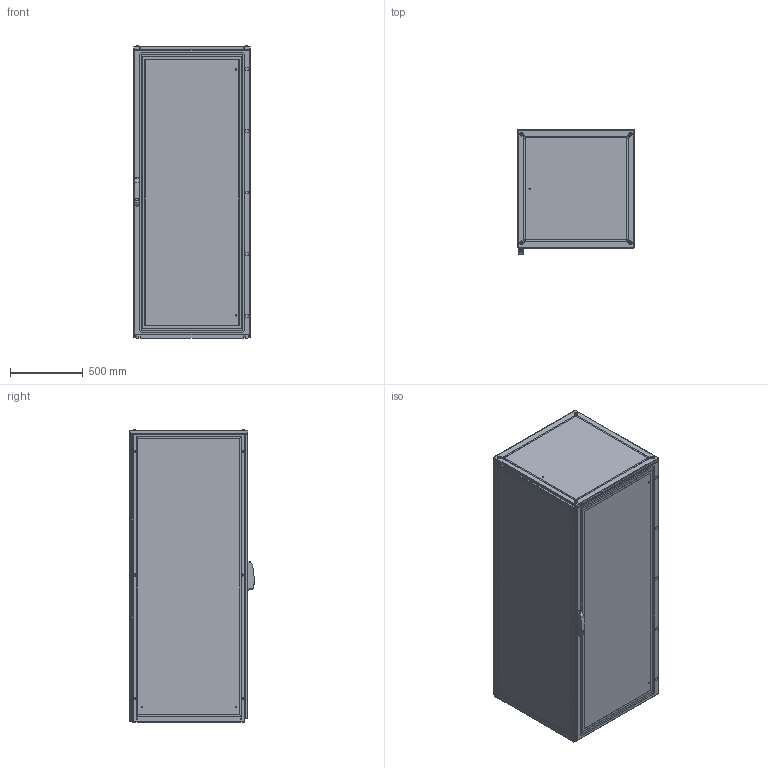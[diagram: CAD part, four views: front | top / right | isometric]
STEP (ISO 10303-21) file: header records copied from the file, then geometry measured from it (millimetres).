
FILE_DESCRIPTION(/* description */ ('STEP AP214'),/* implementation_level */ '2;1');
FILE_NAME(/* name */ 'ENUX082008PR-LOD350',/* time_stamp */ '2025-10-03T09:53:20+02:00',/* author */ ('License CC BY-ND 4.0'),/* organization */ ('CADENAS'),/* preprocessor_version */ 'ST-DEVELOPER v19.3',/* originating_system */ 'PARTsolutions',/* authorisation */ ' ');
FILE_SCHEMA (('AUTOMOTIVE_DESIGN {1 0 10303 214 3 1 1}'));
Length unit declared in the file: millimetre
Products named in the file (10): ENUX082008PR-LOD350; ENUX082008PR-LOD350_CON; ENUX082008PR-LOD350_floor1; ENUX082008PR-LOD350_floor2; Screw M12x30 architecture 350; ENUX082008PR-LOD350_side; ENUX082008PR-LOD350_top; ENUX082008PR-LOD350_back_door; ENUX082008PR-LOD350_door; ENUX082008PR-LOD350_handle
Assembly tree (18 placements, depth 2):
  ENUX082008PR-LOD350
    ENUX082008PR-LOD350_CON
    ENUX082008PR-LOD350_floor1  x2
    ENUX082008PR-LOD350_floor2  x5
    Screw M12x30 architecture 350  x4
    ENUX082008PR-LOD350_side  x2
    ENUX082008PR-LOD350_top
    ENUX082008PR-LOD350_back_door
    ENUX082008PR-LOD350_door
    ENUX082008PR-LOD350_handle
Bounding box: 812 x 857 x 2014.1 mm (x, y, z)
Volume: 25828013.8 mm3; surface area: 21793660.8 mm2
Topology: 18 solids, 18 shells, 1932 faces, 5427 edges, 3540 vertices
Faces by surface type: plane 976, cylinder 791, cone 77, torus 72, sphere 16
Full cylindrical faces by diameter (mm): 4.5 x144, 6 x14, 6.8 x8, 9 x9, 12 x16, 13 x4, 18 x1, 21 x4
Entity records: 48939 total; most frequent: DIRECTION 8477, CARTESIAN_POINT 8465, ORIENTED_EDGE 7944, EDGE_CURVE 3972, AXIS2_PLACEMENT_3D 3034, VERTEX_POINT 2781, LINE 2409, VECTOR 2409
